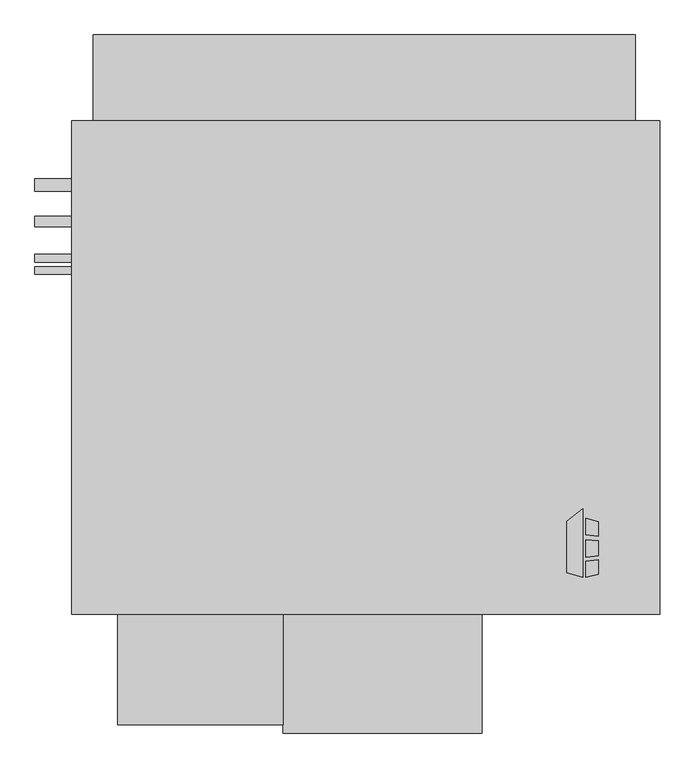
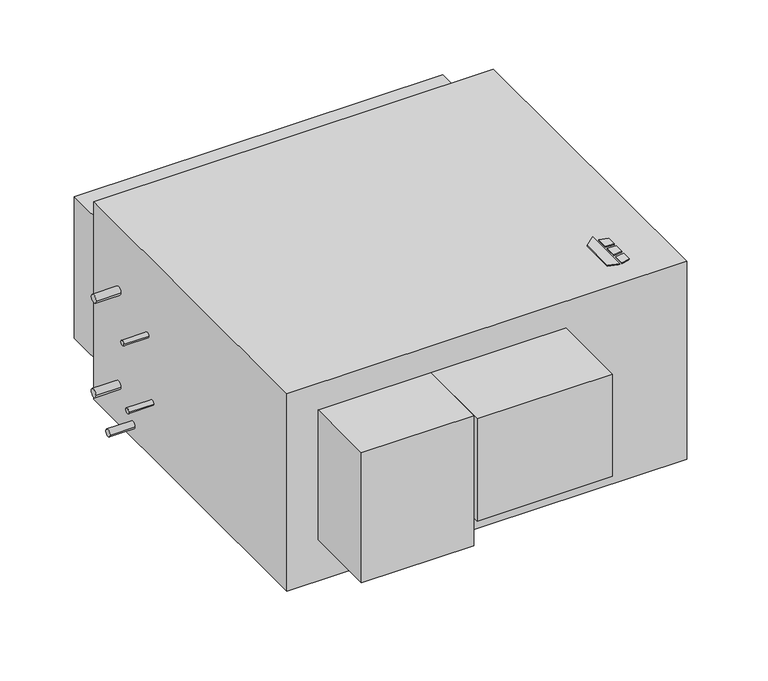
"""IFC4 building model written with IfcOpenShell, lengths in millimetres: proxy geometry, Horizontal_Direct_Drive_Blower_Coil_Unit_-_HDY_-_IEC_-_4-Pipe_LH_2022 : Size 20 - 460v/60Hz/3Ph - 6/2 Coil."""

from ifc_helpers import new_model, si_unit, point, frame, frame_2d, origin, origin_with_axes, place, context, project, spatial, polyline, circle_curve, trimmed, segment, composite_curve, outline, extrude, source, transform, mapped, element, save


def mechanical_equipment_2c99bc06(model_context):
    return source(origin(), model_context, "Body", "SweptSolid", [
        extrude(outline(polyline([(-39.9980239, -337.5078476), (-7.4397272, -312.0705184), (-7.4397272, -454.025), (-39.9980239, -443.8054201), (-39.9980239, -337.5078476)])), origin_with_axes(), (0.0, 0.0, 1.0), 3.175),
        extrude(outline(polyline([(-0.6813942, -365.379852), (-0.6813942, -330.8999379), (25.4, -339.0865115), (25.4, -368.5822446), (-0.6813942, -365.379852)])), origin_with_axes(), (0.0, 0.0, 1.0), 3.175),
        extrude(outline(polyline([(25.4, -447.0365115), (-0.6813942, -454.025), (-0.6813942, -420.8036996), (25.4, -417.2618564), (25.4, -447.0365115)])), origin_with_axes(), (0.0, 0.0, 1.0), 3.175),
        extrude(outline(polyline([(25.4, -377.6638277), (25.4, -408.913983), (-0.6813942, -411.655248), (-0.6813942, -375.7975378), (25.4, -377.6638277)])), origin_with_axes(), (0.0, 0.0, 1.0), 3.175),
        extrude(outline(composite_curve([segment(trimmed(circle_curve(frame_2d((358.775, -205.7657415)), 12.7), [point((371.475, -205.7657415))], [point((346.075, -205.7657415))], False, "CARTESIAN"), True, "CONTINUOUS"), segment(trimmed(circle_curve(frame_2d((358.775, -205.7657415)), 12.7), [point((346.075, -205.7657415))], [point((371.475, -205.7657415))], False, "CARTESIAN"), True, "CONTINUOUS")], self_intersect=False)), frame((-1143.0, 0.0, 0.0), z_axis=(1.0, 0.0, 0.0), x_axis=(0.0, 1.0, 0.0)), (0.0, 0.0, 1.0), 76.2),
        extrude(outline(composite_curve([segment(trimmed(circle_curve(frame_2d((359.642288, -510.5657415)), 12.7), [point((372.342288, -510.5657415))], [point((346.942288, -510.5657415))], False, "CARTESIAN"), True, "CONTINUOUS"), segment(trimmed(circle_curve(frame_2d((359.642288, -510.5657415)), 12.7), [point((346.942288, -510.5657415))], [point((372.342288, -510.5657415))], False, "CARTESIAN"), True, "CONTINUOUS")], self_intersect=False)), frame((-1143.0, 0.0, 0.0), z_axis=(1.0, 0.0, 0.0), x_axis=(0.0, 1.0, 0.0)), (0.0, 0.0, 1.0), 76.2),
        extrude(outline(composite_curve([segment(trimmed(circle_curve(frame_2d((283.442288, -593.1157415)), 11.1125), [point((294.554788, -593.1157415))], [point((272.329788, -593.1157415))], False, "CARTESIAN"), True, "CONTINUOUS"), segment(trimmed(circle_curve(frame_2d((283.442288, -593.1157415)), 11.1125), [point((272.329788, -593.1157415))], [point((294.554788, -593.1157415))], False, "CARTESIAN"), True, "CONTINUOUS")], self_intersect=False)), frame((-1143.0, 0.0, 0.0), z_axis=(1.0, 0.0, 0.0), x_axis=(0.0, 1.0, 0.0)), (0.0, 0.0, 1.0), 76.2),
        extrude(outline(composite_curve([segment(trimmed(circle_curve(frame_2d((207.242288, -256.5657415)), 7.9375), [point((215.179788, -256.5657415))], [point((199.304788, -256.5657415))], False, "CARTESIAN"), True, "CONTINUOUS"), segment(trimmed(circle_curve(frame_2d((207.242288, -256.5657415)), 7.9375), [point((199.304788, -256.5657415))], [point((215.179788, -256.5657415))], False, "CARTESIAN"), True, "CONTINUOUS")], self_intersect=False)), frame((-1143.0, 0.0, 0.0), z_axis=(1.0, 0.0, 0.0), x_axis=(0.0, 1.0, 0.0)), (0.0, 0.0, 1.0), 76.2),
        extrude(outline(composite_curve([segment(trimmed(circle_curve(frame_2d((181.842288, -460.0449971)), 7.9375), [point((189.779788, -460.0449971))], [point((173.904788, -460.0449971))], False, "CARTESIAN"), True, "CONTINUOUS"), segment(trimmed(circle_curve(frame_2d((181.842288, -460.0449971)), 7.9375), [point((173.904788, -460.0449971))], [point((189.779788, -460.0449971))], False, "CARTESIAN"), True, "CONTINUOUS")], self_intersect=False)), frame((-1143.0, 0.0, 0.0), z_axis=(1.0, 0.0, 0.0), x_axis=(0.0, 1.0, 0.0)), (0.0, 0.0, 1.0), 76.2),
        extrude(outline(polyline([(152.4, 492.125), (152.4, -530.225), (-1066.8, -530.225), (-1066.8, 492.125), (152.4, 492.125)])), frame((0.0, 0.0, -637.5657415), z_axis=(0.0, 0.0, 1.0), x_axis=(1.0, 0.0, 0.0)), (0.0, 0.0, 1.0), 637.5657415),
        extrude(outline(polyline([(-628.65, -758.825), (-971.55, -758.825), (-971.55, -530.225), (-628.65, -530.225), (-628.65, -758.825)])), frame((0.0, 0.0, -504.2157415), z_axis=(0.0, 0.0, 1.0), x_axis=(1.0, 0.0, 0.0)), (0.0, 0.0, 1.0), 419.1),
        extrude(outline(polyline([(-1022.35, 669.925), (101.6, 669.925), (101.6, 492.125), (-1022.35, 492.125), (-1022.35, 669.925)])), frame((0.0, 0.0, -564.5407415), z_axis=(0.0, 0.0, 1.0), x_axis=(1.0, 0.0, 0.0)), (0.0, 0.0, 1.0), 457.2),
        extrude(outline(polyline([(-215.9, -776.2875), (-628.65, -776.2875), (-628.65, -530.225), (-215.9, -530.225), (-215.9, -776.2875)])), frame((0.0, 0.0, -415.3157415), z_axis=(0.0, 0.0, 1.0), x_axis=(1.0, 0.0, 0.0)), (0.0, 0.0, 1.0), 330.2),
    ])


if __name__ == "__main__":
    model = new_model("IFC4")
    model_context = context("Model", 3, world=origin())
    ifc_project = project(units=[si_unit("LENGTHUNIT", "METRE", prefix="MILLI")], contexts=[model_context])
    site = spatial("IfcSite", under=ifc_project)
    building = spatial("IfcBuilding", under=site)
    placement = place(None, origin())
    mechanical_equipment_shape = mechanical_equipment_2c99bc06(model_context)
    element("IfcBuildingElementProxy", 1, Name="Horizontal_Direct_Drive_Blower_Coil_Unit_-_HDY_-_IEC_-_4-Pipe_LH_2022 : Size 20 - 460v/60Hz/3Ph - 6/2 Coil", ObjectType="Horizontal_Direct_Drive_Blower_Coil_Unit_-_HDY_-_IEC_-_4-Pipe_LH_2022 : Size 20 - 460v/60Hz/3Ph - 6/2 Coil", at=placement, inside=building, context=model_context, shape_type="MappedRepresentation", body=[
        mapped(mechanical_equipment_shape, transform((0.0, 0.0, 0.0), x_axis=(1.0, 0.0, 0.0), y_axis=(0.0, 1.0, 0.0), z_axis=(0.0, 0.0, 1.0))),
    ])
    save(model, "model.ifc")
